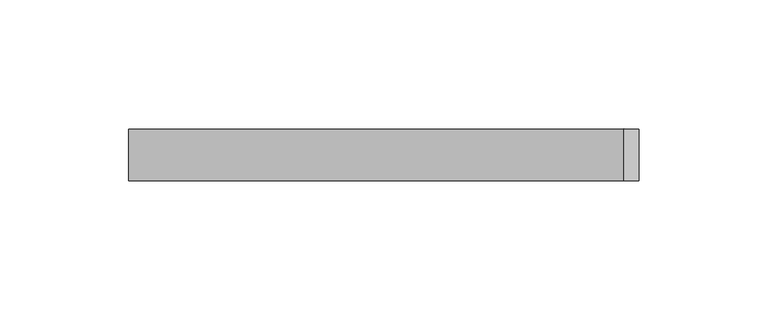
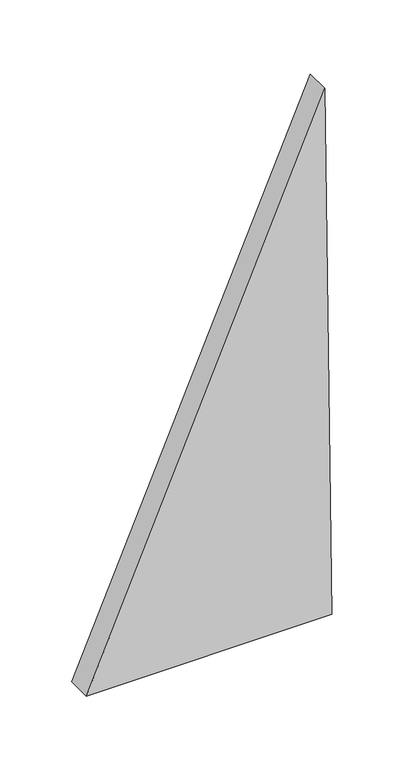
"""IFC4 building model written with IfcOpenShell, lengths in millimetres: plate geometry, 空系统嵌板 : 空."""

from ifc_helpers import new_model, si_unit, frame, origin, place, context, project, spatial, polyline, outline, extrude, source, transform, mapped, element, save


def plate_89c366d1(model_context):
    return source(origin(), model_context, "Body", "SweptSolid", [
        extrude(outline(polyline([(0.0, -98.8760826), (0.4417226, 98.8760826), (449.8052869, 93.1900826), (0.0, -98.8760826)])), frame((0.0, -10.0, 0.0), z_axis=(0.0, 1.0, 0.0), x_axis=(0.0, 0.0, 1.0)), (0.0, 0.0, 1.0), 20.0),
    ])


if __name__ == "__main__":
    model = new_model("IFC4")
    model_context = context("Model", 3, world=origin())
    ifc_project = project(units=[si_unit("LENGTHUNIT", "METRE", prefix="MILLI")], contexts=[model_context])
    site = spatial("IfcSite", under=ifc_project)
    building = spatial("IfcBuilding", under=site)
    placement = place(None, origin())
    plate_shape = plate_89c366d1(model_context)
    element("IfcPlate", 1, ObjectType="空系统嵌板 : 空", at=placement, inside=building, context=model_context, shape_type="MappedRepresentation", body=[
        mapped(plate_shape, transform((0.0, 0.0, 0.0), x_axis=(1.0, 0.0, 0.0), y_axis=(0.0, 1.0, 0.0), z_axis=(0.0, 0.0, 1.0))),
    ])
    save(model, "model.ifc")
